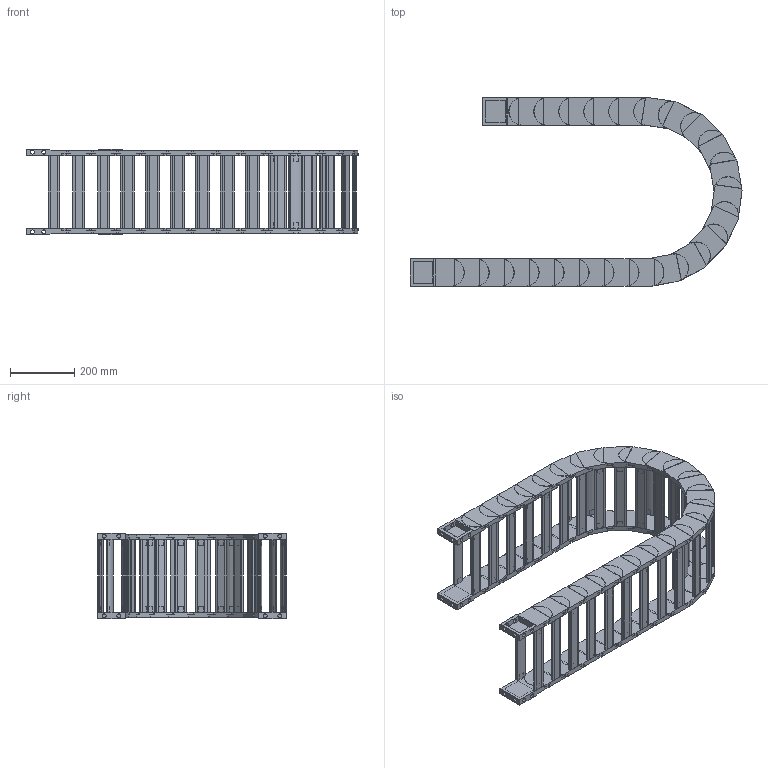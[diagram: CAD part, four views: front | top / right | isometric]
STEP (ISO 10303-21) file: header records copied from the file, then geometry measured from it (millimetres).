
FILE_DESCRIPTION((''),'2;1');
FILE_NAME('HD65-R250-ZPT_ASM','2022-06-18T16:36:50',('admin'),(''),'CREO PARAMETRIC BY PTC INC, 2021164','CREO PARAMETRIC BY PTC INC, 2021164','');
FILE_SCHEMA(('CONFIG_CONTROL_DESIGN','GEOMETRIC_VALIDATION_PROPERTIES_MIM'));
Length unit declared in the file: millimetre
Products named in the file (6): HD65; 65-50HDQSYP; HD65_ASM; H65-T1; H65-T2; HD65-R250-ZPT_ASM
Assembly tree (29 placements, depth 3):
  HD65-R250-ZPT_ASM
    HD65_ASM  x23
      HD65
      65-50HDQSYP
    H65-T1
    H65-T2
    65-50HDQSYP  x2
Bounding box: 1030.73 x 585.89 x 265.5 mm (x, y, z)
Volume: 8936238.3 mm3; surface area: 2643216.1 mm2
Topology: 100 solids, 100 shells, 1844 faces, 4858 edges, 3318 vertices
Faces by surface type: plane 1416, cylinder 428
Entity records: 8932 total; most frequent: CARTESIAN_POINT 1334, DIRECTION 1302, ORIENTED_EDGE 1212, EDGE_CURVE 606, AXIS2_PLACEMENT_3D 439, VECTOR 424, LINE 424, VERTEX_POINT 410
